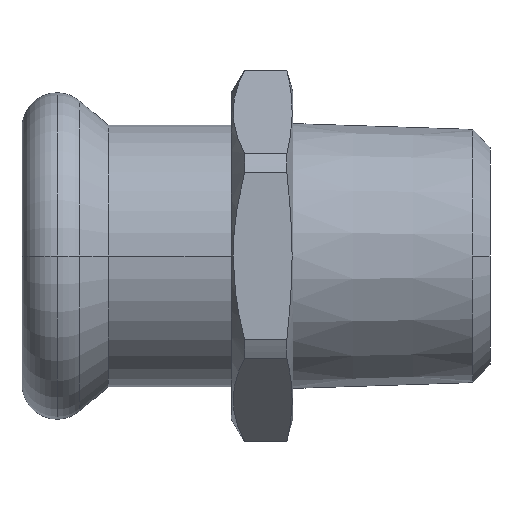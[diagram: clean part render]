
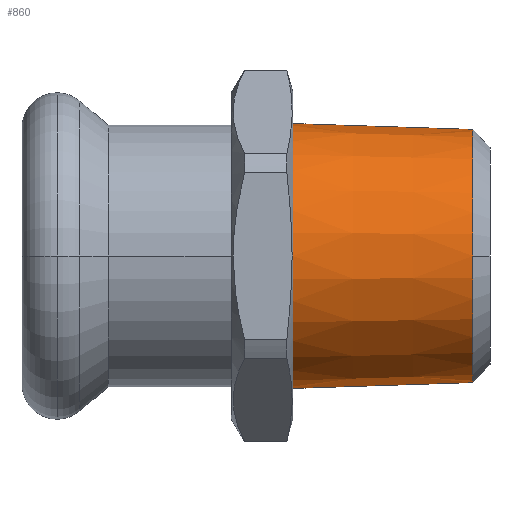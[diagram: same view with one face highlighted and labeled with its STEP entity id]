
A CAD part, front view. The second image highlights one B-rep face of the part: STEP entity #860.
In plain terms, the highlighted conical face has half-angle 1.853 degrees and reference radius 10.75 mm.
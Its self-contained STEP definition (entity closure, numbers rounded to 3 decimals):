
#410=CARTESIAN_POINT('',(-68.571,21.24,
0.));
#420=DIRECTION('',(-1.,0.,0.));
#430=DIRECTION('',(0.,0.,1.));
#440=AXIS2_PLACEMENT_3D('',#410,#420,#430);
#450=CONICAL_SURFACE('',#440,10.75,0.032);
#460=CARTESIAN_POINT('',(-53.97,21.24,
0.));
#470=DIRECTION('',(-1.,0.,0.));
#480=DIRECTION('',(0.,0.,-1.));
#490=AXIS2_PLACEMENT_3D('',#460,#470,#480);
#500=CIRCLE('',#490,10.278);
#510=CARTESIAN_POINT('',(-53.97,21.24,
-10.278));
#520=VERTEX_POINT('',#510);
#530=CARTESIAN_POINT('',(-53.97,10.962,
0.));
#540=VERTEX_POINT('',#530);
#550=EDGE_CURVE('',#520,#540,#500,.T.);
#560=ORIENTED_EDGE('',*,*,#550,.T.);
#570=CARTESIAN_POINT('',(-68.571,21.24,-10.75));
#580=DIRECTION('',(-0.999,0.,
-0.032));
#590=VECTOR('',#580,1.);
#600=LINE('',#570,#590);
#610=CARTESIAN_POINT('',(-68.571,21.24,-10.75));
#620=VERTEX_POINT('',#610);
#630=EDGE_CURVE('',#520,#620,#600,.T.);
#640=ORIENTED_EDGE('',*,*,#630,.F.);
#650=CARTESIAN_POINT('',(-68.571,21.24,
0.));
#660=DIRECTION('',(-1.,0.,0.));
#670=DIRECTION('',(0.,-0.866,0.5));
#680=AXIS2_PLACEMENT_3D('',#650,#660,#670);
#690=CIRCLE('',#680,10.75);
#700=CARTESIAN_POINT('',(-68.571,21.24,10.75));
#710=VERTEX_POINT('',#700);
#720=EDGE_CURVE('',#620,#710,#690,.T.);
#730=ORIENTED_EDGE('',*,*,#720,.F.);
#740=CARTESIAN_POINT('',(-68.571,21.24,10.75));
#750=DIRECTION('',(-0.999,0.,0.032));
#760=VECTOR('',#750,1.);
#770=LINE('',#740,#760);
#780=CARTESIAN_POINT('',(-53.97,21.24,
10.278));
#790=VERTEX_POINT('',#780);
#800=EDGE_CURVE('',#790,#710,#770,.T.);
#810=ORIENTED_EDGE('',*,*,#800,.T.);
#820=EDGE_CURVE('',#540,#790,#500,.T.);
#830=ORIENTED_EDGE('',*,*,#820,.T.);
#840=EDGE_LOOP('',(#830,#810,#730,#640,#560));
#850=FACE_OUTER_BOUND('',#840,.T.);
#860=ADVANCED_FACE('',(#850),#450,.T.);
